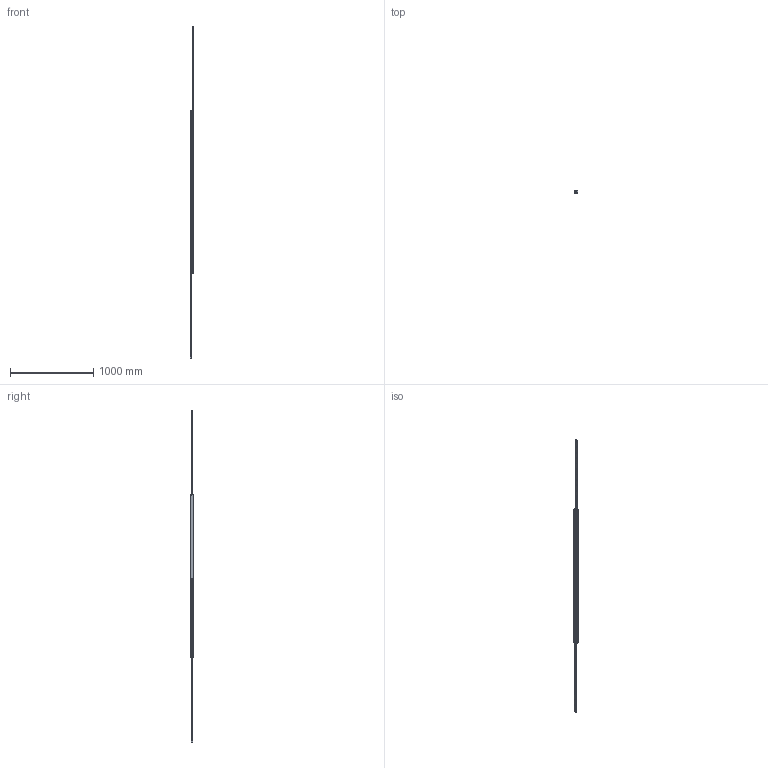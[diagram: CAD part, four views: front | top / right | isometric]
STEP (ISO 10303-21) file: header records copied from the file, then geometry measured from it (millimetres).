
FILE_DESCRIPTION( ( 'STEP AP214' ), '1' );
FILE_NAME( 'p:/temp/worker_96/temp/exporttempdir_1528_932_r5apE/format_0/DEF43-19702026.stp', '2020-03-20T20:05:42', ( 'License CC BY-ND 4.0' ), ( 'CADENAS' ), ' ', 'PARTsolutions', ' ' );
FILE_SCHEMA( ( 'AUTOMOTIVE_DESIGN { 1 0 10303 214 1 1 1 1 }' ) );
Length unit declared in the file: millimetre
Products named in the file (4): DEF43-19702026; _43211970202612-gf; _4321197020261-ei; _43211970202611-gf
Assembly tree (4 placements, depth 2):
  DEF43-19702026
    _43211970202612-gf
    _4321197020261-ei  x2
    _43211970202611-gf
Bounding box: 44 x 43 x 3996 mm (x, y, z)
Volume: 2434801.1 mm3; surface area: 926613.2 mm2
Topology: 4 solids, 4 shells, 302 faces, 742 edges, 460 vertices
Faces by surface type: cone 104, plane 102, cylinder 96
Full cylindrical faces by diameter (mm): 4.134 x2, 6.647 x50, 7 x2
Entity records: 8944 total; most frequent: DIRECTION 1248, CARTESIAN_POINT 1099, ORIENTED_EDGE 926, AXIS2_PLACEMENT_3D 526, EDGE_LOOP 516, EDGE_CURVE 463, VERTEX_POINT 377, FACE_OUTER_BOUND 306
